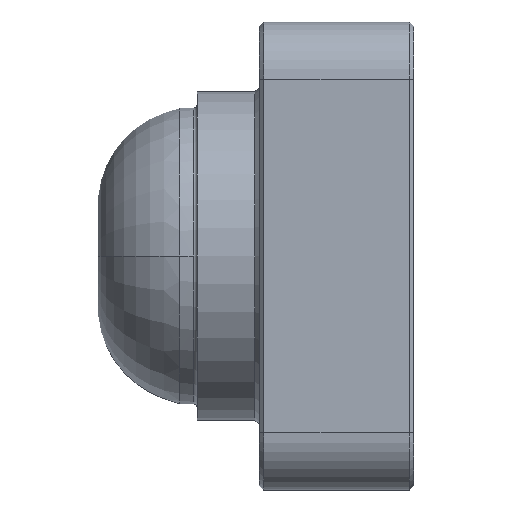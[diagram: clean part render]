
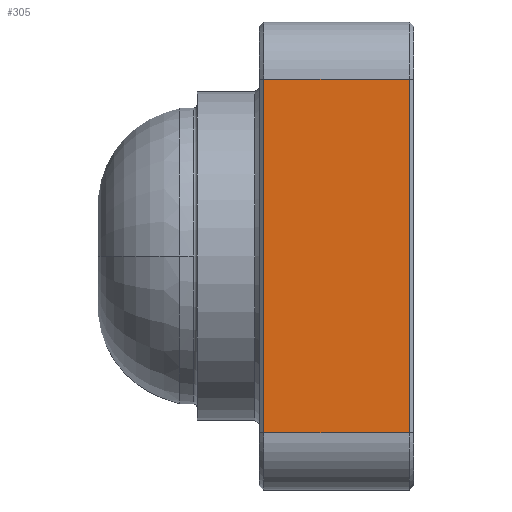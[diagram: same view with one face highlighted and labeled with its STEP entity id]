
A CAD part, left-side view. The second image highlights one B-rep face of the part: STEP entity #305.
In plain terms, the highlighted planar face has unit normal (-1, 0, 0).
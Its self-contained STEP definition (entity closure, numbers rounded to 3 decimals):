
#249 = ORIENTED_EDGE ( 'NONE', *, *, #284, .T. ) ;
#284 = EDGE_CURVE ( 'NONE', #299, #363, #1033, .T. ) ;
#297 = EDGE_CURVE ( 'NONE', #356, #344, #1025, .T. ) ;
#299 = VERTEX_POINT ( 'NONE', #1026 ) ;
#305 = ADVANCED_FACE ( 'NONE', ( #1074 ), #1078, .F. ) ;
#306 = EDGE_LOOP ( 'NONE', ( #249, #347, #349, #337 ) ) ;
#337 = ORIENTED_EDGE ( 'NONE', *, *, #364, .T. ) ;
#344 = VERTEX_POINT ( 'NONE', #1127 ) ;
#347 = ORIENTED_EDGE ( 'NONE', *, *, #357, .T. ) ;
#349 = ORIENTED_EDGE ( 'NONE', *, *, #297, .T. ) ;
#356 = VERTEX_POINT ( 'NONE', #1170 ) ;
#357 = EDGE_CURVE ( 'NONE', #363, #356, #1109, .T. ) ;
#363 = VERTEX_POINT ( 'NONE', #1111 ) ;
#364 = EDGE_CURVE ( 'NONE', #344, #299, #1162, .T. ) ;
#1025 = LINE ( 'NONE', #1077, #1076 ) ;
#1026 = CARTESIAN_POINT ( 'NONE',  ( 0., 34., 13. ) ) ;
#1030 = DIRECTION ( 'NONE',  ( 0., -1., 0. ) ) ;
#1031 = VECTOR ( 'NONE', #1030, 1000. ) ;
#1032 = CARTESIAN_POINT ( 'NONE',  ( 0., 0., 13. ) ) ;
#1033 = LINE ( 'NONE', #1032, #1031 ) ;
#1055 = DIRECTION ( 'NONE',  ( 0., 0., -1. ) ) ;
#1056 = DIRECTION ( 'NONE',  ( 1., 0., 0. ) ) ;
#1057 = CARTESIAN_POINT ( 'NONE',  ( 0., 0., 106. ) ) ;
#1073 = AXIS2_PLACEMENT_3D ( 'NONE', #1057, #1056, #1055 ) ;
#1074 = FACE_OUTER_BOUND ( 'NONE', #306, .T. ) ;
#1075 = DIRECTION ( 'NONE',  ( 0., 1., 0. ) ) ;
#1076 = VECTOR ( 'NONE', #1075, 1000. ) ;
#1077 = CARTESIAN_POINT ( 'NONE',  ( 0., 0., 93. ) ) ;
#1078 = PLANE ( 'NONE',  #1073 ) ;
#1109 = LINE ( 'NONE', #1168, #1167 ) ;
#1111 = CARTESIAN_POINT ( 'NONE',  ( 0., 1., 13. ) ) ;
#1127 = CARTESIAN_POINT ( 'NONE',  ( 0., 34., 93. ) ) ;
#1148 = DIRECTION ( 'NONE',  ( 0., 0., -1. ) ) ;
#1149 = VECTOR ( 'NONE', #1148, 1000. ) ;
#1162 = LINE ( 'NONE', #1164, #1149 ) ;
#1164 = CARTESIAN_POINT ( 'NONE',  ( 0., 34., 106. ) ) ;
#1166 = DIRECTION ( 'NONE',  ( 0., 0., 1. ) ) ;
#1167 = VECTOR ( 'NONE', #1166, 1000. ) ;
#1168 = CARTESIAN_POINT ( 'NONE',  ( 0., 1., 106. ) ) ;
#1170 = CARTESIAN_POINT ( 'NONE',  ( 0., 1., 93. ) ) ;
